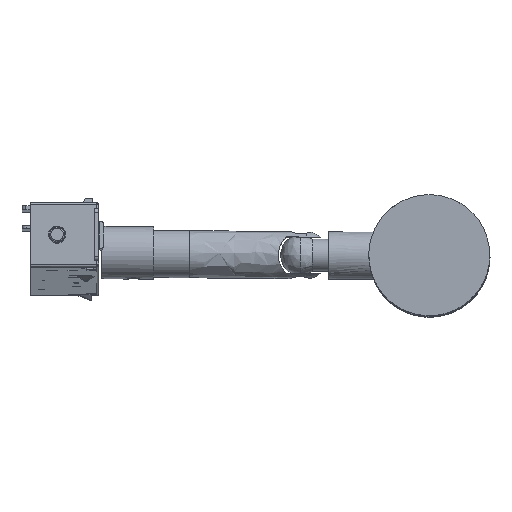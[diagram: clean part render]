
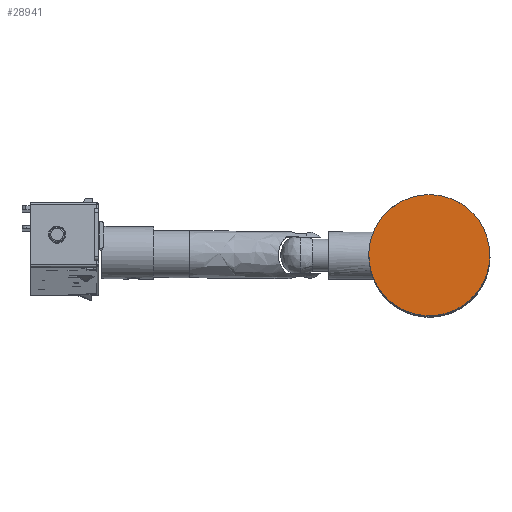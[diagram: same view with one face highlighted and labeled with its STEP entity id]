
A CAD part, left-side view. The second image highlights one B-rep face of the part: STEP entity #28941.
In plain terms, the highlighted free-form (B-spline) face has degree [1, 1] with [2, 2] control points.
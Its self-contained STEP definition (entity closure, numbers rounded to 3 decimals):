
#2310 = EDGE_CURVE ( 'NONE', #54843, #35081, #19425, .T. ) ;
#2963 = B_SPLINE_SURFACE_WITH_KNOTS ( 'NONE', 1, 1, ( 
 ( #14511, #5735 ),
 ( #50613, #37129 ) ),
 .UNSPECIFIED., .F., .F., .F.,
 ( 2, 2 ),
 ( 2, 2 ),
 ( 0., 1. ),
 ( 0., 1. ),
 .UNSPECIFIED. ) ;
#3500 = CARTESIAN_POINT ( 'NONE',  ( -194.469, -144.434, -9.217 ) ) ;
#3764 = CARTESIAN_POINT ( 'NONE',  ( -202.54, -144.434, 14.61 ) ) ;
#4037 = CARTESIAN_POINT ( 'NONE',  ( -210.39, -144.434, 14.61 ) ) ;
#4351 = CARTESIAN_POINT ( 'NONE',  ( -202.54, -144.434, -14.61 ) ) ;
#5735 = CARTESIAN_POINT ( 'NONE',  ( -221.645, -144.434, -15.18 ) ) ;
#7042 = CARTESIAN_POINT ( 'NONE',  ( -221.465, -144.434, 1.965 ) ) ;
#7875 = CARTESIAN_POINT ( 'NONE',  ( -204.5, -144.434, -15. ) ) ;
#10721 = EDGE_LOOP ( 'NONE', ( #57763, #15056 ) ) ;
#11158 = CARTESIAN_POINT ( 'NONE',  ( -197.248, -144.434, 11.996 ) ) ;
#11723 = CARTESIAN_POINT ( 'NONE',  ( -191.855, -144.434, 3.925 ) ) ;
#12829 = CARTESIAN_POINT ( 'NONE',  ( -219.571, -144.434, 7.556 ) ) ;
#13148 = CARTESIAN_POINT ( 'NONE',  ( -214.021, -144.434, -13.106 ) ) ;
#13950 = FACE_OUTER_BOUND ( 'NONE', #10721, .T. ) ;
#14511 = CARTESIAN_POINT ( 'NONE',  ( -221.645, -144.434, 15.18 ) ) ;
#15056 = ORIENTED_EDGE ( 'NONE', *, *, #2310, .T. ) ;
#15552 = CARTESIAN_POINT ( 'NONE',  ( -215.682, -144.434, 11.996 ) ) ;
#16118 = B_SPLINE_CURVE_WITH_KNOTS ( 'NONE', 3,
 ( #57736, #16711, #30198, #48090, #44001, #39313, #13148, #39593, #30486, #7875, #4351, #56582, #31073, #3500, #16394, #21430, #21125, #34302 ),
 .UNSPECIFIED., .F., .F.,
 ( 4, 2, 2, 2, 2, 2, 2, 2, 4 ),
 ( 0., 0.393, 0.785, 1.178, 1.571, 1.963, 2.356, 2.749, 3.142 ),
 .UNSPECIFIED. ) ;
#16150 = CARTESIAN_POINT ( 'NONE',  ( -221.465, -144.434, 0. ) ) ;
#16394 = CARTESIAN_POINT ( 'NONE',  ( -193.359, -144.434, -7.556 ) ) ;
#16711 = CARTESIAN_POINT ( 'NONE',  ( -221.465, -144.434, -1.965 ) ) ;
#19425 = B_SPLINE_CURVE_WITH_KNOTS ( 'NONE', 3,
 ( #29353, #44517, #11723, #26359, #46963, #11158, #25263, #3764, #44245, #48929, #4037, #39563, #15552, #43157, #12829, #51654, #7042, #16150 ),
 .UNSPECIFIED., .F., .F.,
 ( 4, 2, 2, 2, 2, 2, 2, 2, 4 ),
 ( 0., 0.393, 0.785, 1.178, 1.571, 1.963, 2.356, 2.749, 3.142 ),
 .UNSPECIFIED. ) ;
#21125 = CARTESIAN_POINT ( 'NONE',  ( -191.465, -144.434, -1.965 ) ) ;
#21430 = CARTESIAN_POINT ( 'NONE',  ( -191.855, -144.434, -3.925 ) ) ;
#23431 = CARTESIAN_POINT ( 'NONE',  ( -191.465, -144.434, 0. ) ) ;
#25263 = CARTESIAN_POINT ( 'NONE',  ( -198.909, -144.434, 13.106 ) ) ;
#26359 = CARTESIAN_POINT ( 'NONE',  ( -193.359, -144.434, 7.556 ) ) ;
#28941 = ADVANCED_FACE ( 'NONE', ( #13950 ), #2963, .F. ) ;
#29353 = CARTESIAN_POINT ( 'NONE',  ( -191.465, -144.434, 0. ) ) ;
#30198 = CARTESIAN_POINT ( 'NONE',  ( -221.075, -144.434, -3.925 ) ) ;
#30486 = CARTESIAN_POINT ( 'NONE',  ( -208.43, -144.434, -15. ) ) ;
#31073 = CARTESIAN_POINT ( 'NONE',  ( -197.248, -144.434, -11.996 ) ) ;
#34302 = CARTESIAN_POINT ( 'NONE',  ( -191.465, -144.434, 0. ) ) ;
#35081 = VERTEX_POINT ( 'NONE', #48840 ) ;
#37129 = CARTESIAN_POINT ( 'NONE',  ( -191.285, -144.434, -15.18 ) ) ;
#39313 = CARTESIAN_POINT ( 'NONE',  ( -215.682, -144.434, -11.996 ) ) ;
#39563 = CARTESIAN_POINT ( 'NONE',  ( -214.021, -144.434, 13.106 ) ) ;
#39593 = CARTESIAN_POINT ( 'NONE',  ( -210.39, -144.434, -14.61 ) ) ;
#41994 = EDGE_CURVE ( 'NONE', #35081, #54843, #16118, .T. ) ;
#43157 = CARTESIAN_POINT ( 'NONE',  ( -218.461, -144.434, 9.217 ) ) ;
#44001 = CARTESIAN_POINT ( 'NONE',  ( -218.461, -144.434, -9.217 ) ) ;
#44245 = CARTESIAN_POINT ( 'NONE',  ( -204.5, -144.434, 15. ) ) ;
#44517 = CARTESIAN_POINT ( 'NONE',  ( -191.465, -144.434, 1.965 ) ) ;
#46963 = CARTESIAN_POINT ( 'NONE',  ( -194.469, -144.434, 9.217 ) ) ;
#48090 = CARTESIAN_POINT ( 'NONE',  ( -219.571, -144.434, -7.556 ) ) ;
#48840 = CARTESIAN_POINT ( 'NONE',  ( -221.465, -144.434, 0. ) ) ;
#48929 = CARTESIAN_POINT ( 'NONE',  ( -208.43, -144.434, 15. ) ) ;
#50613 = CARTESIAN_POINT ( 'NONE',  ( -191.285, -144.434, 15.18 ) ) ;
#51654 = CARTESIAN_POINT ( 'NONE',  ( -221.075, -144.434, 3.925 ) ) ;
#54843 = VERTEX_POINT ( 'NONE', #23431 ) ;
#56582 = CARTESIAN_POINT ( 'NONE',  ( -198.909, -144.434, -13.106 ) ) ;
#57736 = CARTESIAN_POINT ( 'NONE',  ( -221.465, -144.434, 0. ) ) ;
#57763 = ORIENTED_EDGE ( 'NONE', *, *, #41994, .T. ) ;
